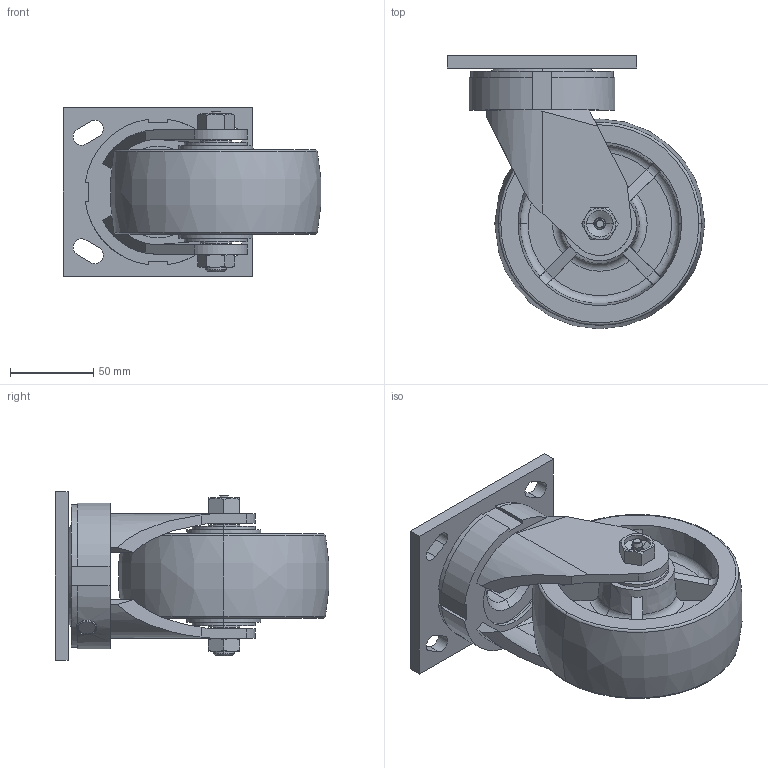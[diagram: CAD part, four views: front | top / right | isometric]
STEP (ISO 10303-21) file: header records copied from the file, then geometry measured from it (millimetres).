
FILE_DESCRIPTION (( 'STEP AP203' ), '1' );
FILE_NAME ('5寸抗冲击不带刹车.STEP', '2023-03-06T06:09:38', ( 'amidn' ), ( '' ), 'SwSTEP 2.0', 'SolidWorks 2018', '' );
FILE_SCHEMA (( 'CONFIG_CONTROL_DESIGN' ));
Length unit declared in the file: millimetre
Products named in the file (9): _50116.03^4.05189.839(2)_4.05189.839; _5.00005.839 (T)^4.05189.839(2)_4.05189.839; _55000.23^4.05189.839(2)_4.05189.839; 4.05189.839(2)^4.05189.839; _SK-9905X63-1P^4.05189.839(2)_4.05189.839; _05953.76(2.96)^4.05189.839(2)_4.05189.839; _52000.08^4.05189.839(2)_4.05189.839; _SK-9905X80-4-F^4.05189.839(2)_4.05189.839; 5寸抗冲击不带刹车
Assembly tree (9 placements, depth 3):
  5寸抗冲击不带刹车
    4.05189.839(2)^4.05189.839
      _SK-9905X63-1P^4.05189.839(2)_4.05189.839
      _SK-9905X80-4-F^4.05189.839(2)_4.05189.839
      _05953.76(2.96)^4.05189.839(2)_4.05189.839
      _5.00005.839 (T)^4.05189.839(2)_4.05189.839
      _52000.08^4.05189.839(2)_4.05189.839
      _55000.23^4.05189.839(2)_4.05189.839
      _50116.03^4.05189.839(2)_4.05189.839  x2
Bounding box: 155.19 x 164.84 x 101.6 mm (x, y, z)
Volume: 696036.9 mm3; surface area: 167750.1 mm2
Topology: 8 solids, 9 shells, 307 faces, 759 edges, 483 vertices
Faces by surface type: plane 124, cylinder 80, cone 60, torus 41, bspline 2
Entity records: 11754 total; most frequent: CARTESIAN_POINT 3706, DIRECTION 1502, ORIENTED_EDGE 1478, EDGE_CURVE 739, AXIS2_PLACEMENT_3D 608, VERTEX_POINT 471, EDGE_LOOP 336, CIRCLE 299
